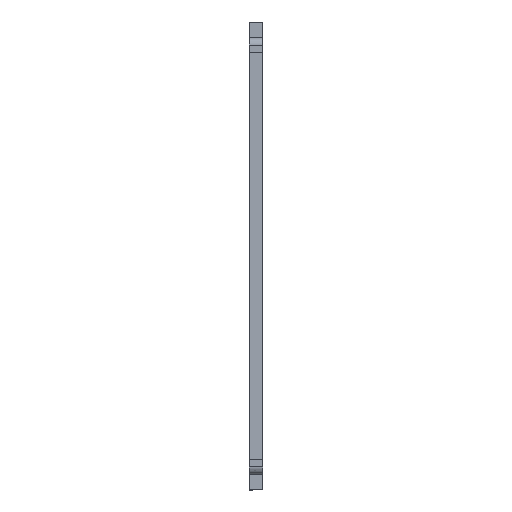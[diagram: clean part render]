
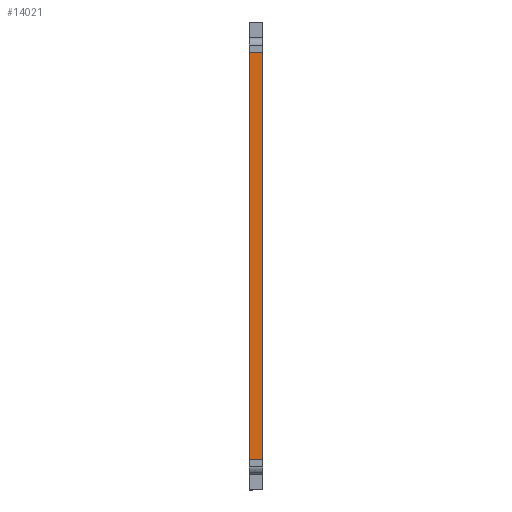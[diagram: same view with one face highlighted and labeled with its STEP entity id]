
A CAD part, left-side view. The second image highlights one B-rep face of the part: STEP entity #14021.
In plain terms, the highlighted planar face has unit normal (-1, 0, 0).
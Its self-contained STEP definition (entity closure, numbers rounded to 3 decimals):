
#451 = VECTOR ( 'NONE', #791, 1000. ) ;
#612 = EDGE_CURVE ( 'NONE', #2300, #3086, #12683, .T. ) ;
#791 = DIRECTION ( 'NONE',  ( 0., -1., 0. ) ) ;
#1901 = CARTESIAN_POINT ( 'NONE',  ( -47., -4., -30.75 ) ) ;
#2300 = VERTEX_POINT ( 'NONE', #5956 ) ;
#2355 = LINE ( 'NONE', #8511, #451 ) ;
#2849 = VERTEX_POINT ( 'NONE', #6952 ) ;
#3086 = VERTEX_POINT ( 'NONE', #10606 ) ;
#3120 = EDGE_LOOP ( 'NONE', ( #7131, #7437, #9254, #12457 ) ) ;
#3344 = LINE ( 'NONE', #13891, #3689 ) ;
#3465 = CARTESIAN_POINT ( 'NONE',  ( -47., -2.1, 31. ) ) ;
#3689 = VECTOR ( 'NONE', #12922, 1000. ) ;
#3819 = EDGE_CURVE ( 'NONE', #2849, #9418, #12991, .T. ) ;
#5956 = CARTESIAN_POINT ( 'NONE',  ( -47., -2.1, 26.75 ) ) ;
#6952 = CARTESIAN_POINT ( 'NONE',  ( -47., -4., 26.75 ) ) ;
#6960 = PLANE ( 'NONE',  #11976 ) ;
#7053 = VECTOR ( 'NONE', #9593, 1000. ) ;
#7131 = ORIENTED_EDGE ( 'NONE', *, *, #612, .T. ) ;
#7437 = ORIENTED_EDGE ( 'NONE', *, *, #11352, .F. ) ;
#8511 = CARTESIAN_POINT ( 'NONE',  ( -47., -2., 26.75 ) ) ;
#9254 = ORIENTED_EDGE ( 'NONE', *, *, #3819, .F. ) ;
#9418 = VERTEX_POINT ( 'NONE', #13018 ) ;
#9593 = DIRECTION ( 'NONE',  ( 0., 0., -1. ) ) ;
#10334 = DIRECTION ( 'NONE',  ( 0., 0., -1. ) ) ;
#10606 = CARTESIAN_POINT ( 'NONE',  ( -47., -2.1, -30.75 ) ) ;
#10876 = FACE_OUTER_BOUND ( 'NONE', #3120, .T. ) ;
#11284 = VECTOR ( 'NONE', #12373, 1000. ) ;
#11352 = EDGE_CURVE ( 'NONE', #9418, #3086, #3344, .T. ) ;
#11363 = DIRECTION ( 'NONE',  ( 1., 0., 0. ) ) ;
#11502 = CARTESIAN_POINT ( 'NONE',  ( -47., 22.5, -33. ) ) ;
#11976 = AXIS2_PLACEMENT_3D ( 'NONE', #11502, #11363, #10334 ) ;
#12373 = DIRECTION ( 'NONE',  ( 0., 0., -1. ) ) ;
#12457 = ORIENTED_EDGE ( 'NONE', *, *, #13658, .F. ) ;
#12683 = LINE ( 'NONE', #3465, #11284 ) ;
#12922 = DIRECTION ( 'NONE',  ( 0., 1., 0. ) ) ;
#12991 = LINE ( 'NONE', #1901, #7053 ) ;
#13018 = CARTESIAN_POINT ( 'NONE',  ( -47., -4., -30.75 ) ) ;
#13658 = EDGE_CURVE ( 'NONE', #2300, #2849, #2355, .T. ) ;
#13891 = CARTESIAN_POINT ( 'NONE',  ( -47., -2., -30.75 ) ) ;
#14021 = ADVANCED_FACE ( 'NONE', ( #10876 ), #6960, .F. ) ;
